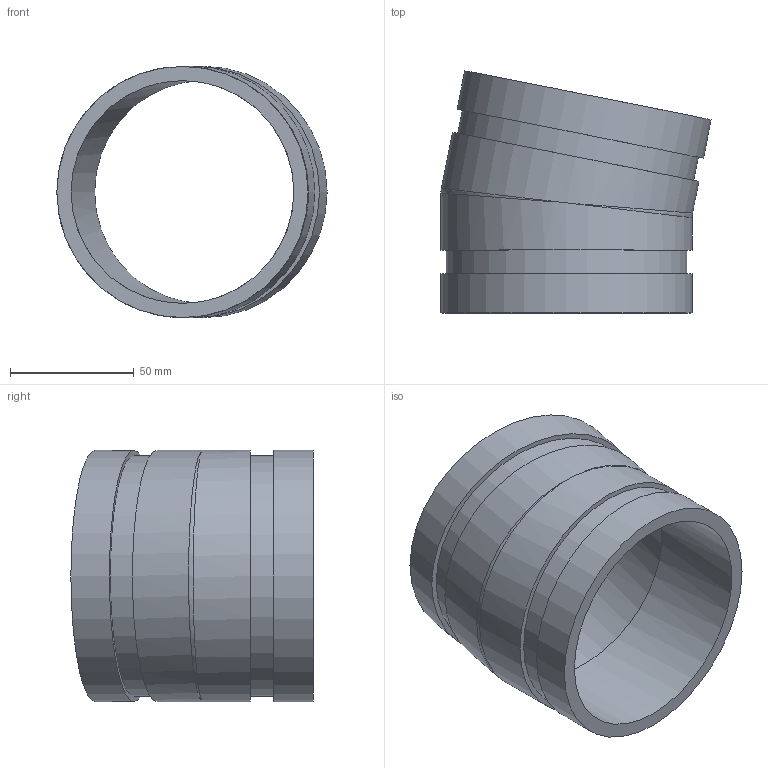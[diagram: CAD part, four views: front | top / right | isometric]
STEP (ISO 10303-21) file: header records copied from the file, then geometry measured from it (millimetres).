
FILE_DESCRIPTION(/* description */ ('VIC 11-1/4 DEG. ELBOW No 13','CAx-IF Rec.Pracs.---Representation and Presentation of Product Manufacturing Information (PMI)---4.0---2014-10-13'),/* implementation_level */ '2;1');
FILE_NAME(/* name */ 'C:\Users\kkamble\AppData\Roaming\Autodesk\ApplicationPlugins\Back Up\Victaulic_IPS_Elbow 11.25 Deg_No 13 (OGS)\Victaulic_IPS_Elbow 11.25 Deg_No 13 (OGS)_3.5 (90).stp',/* time_stamp */ '2020-07-24T08:09:04+06:00',/* author */ ('CONSTRUCTION PIPING SERVICES'),/* organization */ ('Victaulic'),/* preprocessor_version */ 'ST-DEVELOPER v17.2',/* originating_system */ 'Autodesk Inventor 2019',/* authorisation */ '');
FILE_SCHEMA (('AP242_MANAGED_MODEL_BASED_3D_ENGINEERING_MIM_LF { 1 0 10303 442 1 1 4 }'));
Length unit declared in the file: inch
Products named in the file (1): 013-03.5
Bounding box: 109.3 x 97.96 x 101.6 mm (x, y, z)
Volume: 141130.7 mm3; surface area: 59384.9 mm2
Topology: 1 solids, 1 shells, 16 faces, 37 edges, 23 vertices
Faces by surface type: cylinder 8, plane 6, bspline 2
Full cylindrical faces by diameter (mm): 90.119 x2, 97.384 x2, 101.6 x4
Entity records: 581 total; most frequent: CARTESIAN_POINT 151, DIRECTION 88, ORIENTED_EDGE 66, AXIS2_PLACEMENT_3D 40, EDGE_CURVE 33, VERTEX_POINT 23, EDGE_LOOP 22, STYLED_ITEM 17
